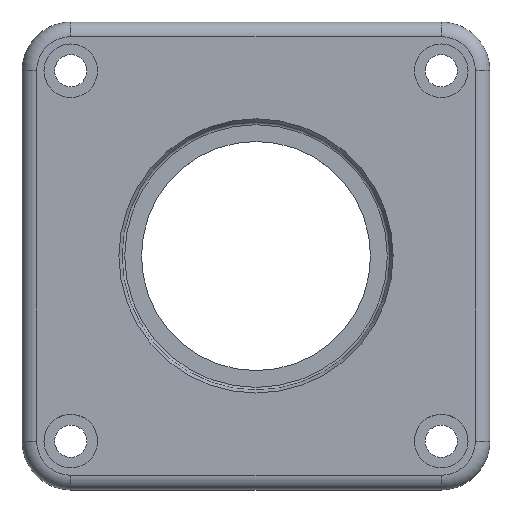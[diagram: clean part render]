
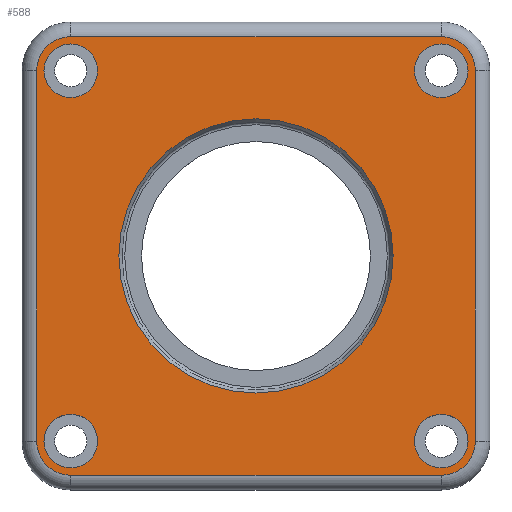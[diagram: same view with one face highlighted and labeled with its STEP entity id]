
A CAD part, top view. The second image highlights one B-rep face of the part: STEP entity #588.
In plain terms, the highlighted planar face has unit normal (0, 0, 1).
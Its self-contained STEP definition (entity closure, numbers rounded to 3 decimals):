
#21=FACE_BOUND('',#113,.T.);
#22=FACE_BOUND('',#114,.T.);
#23=FACE_BOUND('',#115,.T.);
#24=FACE_BOUND('',#116,.T.);
#25=FACE_BOUND('',#117,.T.);
#38=PLANE('',#655);
#72=FACE_OUTER_BOUND('',#112,.T.);
#112=EDGE_LOOP('',(#428,#429,#430,#431,#432,#433,#434,#435));
#113=EDGE_LOOP('',(#436));
#114=EDGE_LOOP('',(#437));
#115=EDGE_LOOP('',(#438));
#116=EDGE_LOOP('',(#439));
#117=EDGE_LOOP('',(#440));
#169=LINE('',#972,#202);
#170=LINE('',#976,#203);
#171=LINE('',#980,#204);
#172=LINE('',#983,#205);
#202=VECTOR('',#759,10.);
#203=VECTOR('',#762,10.);
#204=VECTOR('',#765,10.);
#205=VECTOR('',#768,10.);
#233=CIRCLE('',#650,28.135);
#237=CIRCLE('',#656,7.);
#238=CIRCLE('',#657,7.);
#239=CIRCLE('',#658,7.);
#240=CIRCLE('',#659,7.);
#241=CIRCLE('',#660,5.5);
#242=CIRCLE('',#661,5.5);
#243=CIRCLE('',#662,5.5);
#244=CIRCLE('',#663,5.5);
#283=VERTEX_POINT('',#956);
#287=VERTEX_POINT('',#968);
#288=VERTEX_POINT('',#969);
#289=VERTEX_POINT('',#971);
#290=VERTEX_POINT('',#973);
#291=VERTEX_POINT('',#975);
#292=VERTEX_POINT('',#977);
#293=VERTEX_POINT('',#979);
#294=VERTEX_POINT('',#981);
#295=VERTEX_POINT('',#984);
#296=VERTEX_POINT('',#986);
#297=VERTEX_POINT('',#988);
#298=VERTEX_POINT('',#990);
#335=EDGE_CURVE('',#283,#283,#233,.T.);
#341=EDGE_CURVE('',#287,#288,#237,.T.);
#342=EDGE_CURVE('',#289,#287,#169,.T.);
#343=EDGE_CURVE('',#290,#289,#238,.T.);
#344=EDGE_CURVE('',#291,#290,#170,.T.);
#345=EDGE_CURVE('',#292,#291,#239,.T.);
#346=EDGE_CURVE('',#293,#292,#171,.T.);
#347=EDGE_CURVE('',#294,#293,#240,.T.);
#348=EDGE_CURVE('',#288,#294,#172,.T.);
#349=EDGE_CURVE('',#295,#295,#241,.T.);
#350=EDGE_CURVE('',#296,#296,#242,.T.);
#351=EDGE_CURVE('',#297,#297,#243,.T.);
#352=EDGE_CURVE('',#298,#298,#244,.T.);
#428=ORIENTED_EDGE('',*,*,#341,.F.);
#429=ORIENTED_EDGE('',*,*,#342,.F.);
#430=ORIENTED_EDGE('',*,*,#343,.F.);
#431=ORIENTED_EDGE('',*,*,#344,.F.);
#432=ORIENTED_EDGE('',*,*,#345,.F.);
#433=ORIENTED_EDGE('',*,*,#346,.F.);
#434=ORIENTED_EDGE('',*,*,#347,.F.);
#435=ORIENTED_EDGE('',*,*,#348,.F.);
#436=ORIENTED_EDGE('',*,*,#349,.T.);
#437=ORIENTED_EDGE('',*,*,#350,.T.);
#438=ORIENTED_EDGE('',*,*,#351,.T.);
#439=ORIENTED_EDGE('',*,*,#352,.T.);
#440=ORIENTED_EDGE('',*,*,#335,.F.);
#588=ADVANCED_FACE('',(#72,#21,#22,#23,#24,#25),#38,.T.);
#650=AXIS2_PLACEMENT_3D('',#957,#743,#744);
#655=AXIS2_PLACEMENT_3D('',#967,#755,#756);
#656=AXIS2_PLACEMENT_3D('',#970,#757,#758);
#657=AXIS2_PLACEMENT_3D('',#974,#760,#761);
#658=AXIS2_PLACEMENT_3D('',#978,#763,#764);
#659=AXIS2_PLACEMENT_3D('',#982,#766,#767);
#660=AXIS2_PLACEMENT_3D('',#985,#769,#770);
#661=AXIS2_PLACEMENT_3D('',#987,#771,#772);
#662=AXIS2_PLACEMENT_3D('',#989,#773,#774);
#663=AXIS2_PLACEMENT_3D('',#991,#775,#776);
#743=DIRECTION('center_axis',(0.,0.,1.));
#744=DIRECTION('ref_axis',(1.,0.,0.));
#755=DIRECTION('center_axis',(0.,0.,1.));
#756=DIRECTION('ref_axis',(1.,0.,0.));
#757=DIRECTION('center_axis',(0.,0.,-1.));
#758=DIRECTION('ref_axis',(0.707,0.707,0.));
#759=DIRECTION('',(1.,0.,0.));
#760=DIRECTION('center_axis',(0.,0.,-1.));
#761=DIRECTION('ref_axis',(-0.707,0.707,0.));
#762=DIRECTION('',(0.,1.,0.));
#763=DIRECTION('center_axis',(0.,0.,-1.));
#764=DIRECTION('ref_axis',(-0.707,-0.707,0.));
#765=DIRECTION('',(-1.,0.,0.));
#766=DIRECTION('center_axis',(0.,0.,-1.));
#767=DIRECTION('ref_axis',(0.707,-0.707,0.));
#768=DIRECTION('',(0.,-1.,0.));
#769=DIRECTION('center_axis',(0.,0.,-1.));
#770=DIRECTION('ref_axis',(0.,1.,0.));
#771=DIRECTION('center_axis',(0.,0.,-1.));
#772=DIRECTION('ref_axis',(-1.,0.,0.));
#773=DIRECTION('center_axis',(0.,0.,-1.));
#774=DIRECTION('ref_axis',(0.,-1.,0.));
#775=DIRECTION('center_axis',(0.,0.,-1.));
#776=DIRECTION('ref_axis',(1.,0.,0.));
#956=CARTESIAN_POINT('',(-28.135,0.,12.));
#957=CARTESIAN_POINT('Origin',(0.,0.,12.));
#967=CARTESIAN_POINT('Origin',(0.,0.,12.));
#968=CARTESIAN_POINT('',(38.,45.,12.));
#969=CARTESIAN_POINT('',(45.,38.,12.));
#970=CARTESIAN_POINT('Origin',(38.,38.,12.));
#971=CARTESIAN_POINT('',(-38.,45.,12.));
#972=CARTESIAN_POINT('',(19.,45.,12.));
#973=CARTESIAN_POINT('',(-45.,38.,12.));
#974=CARTESIAN_POINT('Origin',(-38.,38.,12.));
#975=CARTESIAN_POINT('',(-45.,-38.,12.));
#976=CARTESIAN_POINT('',(-45.,19.,12.));
#977=CARTESIAN_POINT('',(-38.,-45.,12.));
#978=CARTESIAN_POINT('Origin',(-38.,-38.,12.));
#979=CARTESIAN_POINT('',(38.,-45.,12.));
#980=CARTESIAN_POINT('',(-19.,-45.,12.));
#981=CARTESIAN_POINT('',(45.,-38.,12.));
#982=CARTESIAN_POINT('Origin',(38.,-38.,12.));
#983=CARTESIAN_POINT('',(45.,-19.,12.));
#984=CARTESIAN_POINT('',(-38.,32.5,12.));
#985=CARTESIAN_POINT('Origin',(-38.,38.,12.));
#986=CARTESIAN_POINT('',(-32.5,-38.,12.));
#987=CARTESIAN_POINT('Origin',(-38.,-38.,12.));
#988=CARTESIAN_POINT('',(38.,-32.5,12.));
#989=CARTESIAN_POINT('Origin',(38.,-38.,12.));
#990=CARTESIAN_POINT('',(32.5,38.,12.));
#991=CARTESIAN_POINT('Origin',(38.,38.,12.));
